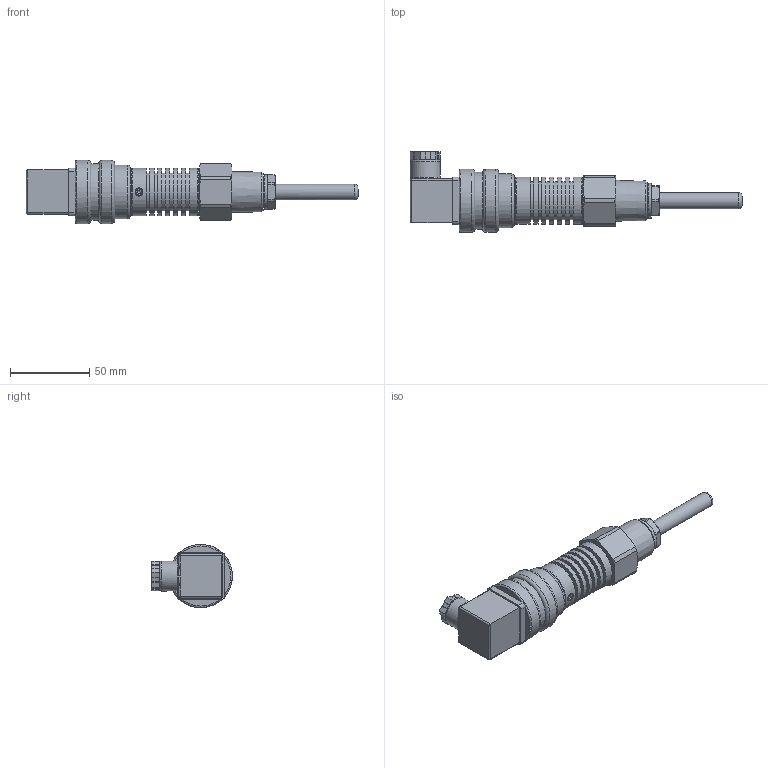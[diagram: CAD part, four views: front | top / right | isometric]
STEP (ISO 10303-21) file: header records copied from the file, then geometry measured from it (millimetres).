
FILE_DESCRIPTION((''),'2;1');
FILE_NAME('R:\Mekanisk design\HBSR\5. STEP files\HBSR-SAM-KOM.stp','2013-03-06T13:18:40',('svj'),(''),'Autodesk Inventor 2013','Autodesk Inventor 2013','');
FILE_SCHEMA(('AUTOMOTIVE_DESIGN { 1 0 10303 214 1 1 1 1 }'));
Length unit declared in the file: millimetre
Products named in the file (1): HBSR-SAM-KOM
Bounding box: 210.03 x 51.1 x 40 mm (x, y, z)
Volume: 95512.9 mm3; surface area: 48109 mm2
Topology: 1 solids, 7 shells, 761 faces, 2057 edges, 1323 vertices
Faces by surface type: plane 443, cylinder 192, cone 42, torus 40, bspline 37, sphere 7
Full cylindrical faces by diameter (mm): 0.7 x1, 1 x1, 1.1 x2, 2.459 x1, 2.7 x1, 3 x1, 3.5 x1, 4 x1, 4.5 x1, 5.7 x1, 5.8 x1, 6 x1, 6.2 x1, 8 x1, 8.4 x1, 8.5 x1, 8.6 x1, 9 x1, 10 x4, 10.1 x1, 10.5 x3, 12 x1, 12.5 x1, 13.5 x1, 16 x1, 16.8 x2, 17.9 x1, 19 x3, 19.9 x1, 20 x1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
Entity records: 31289 total; most frequent: CARTESIAN_POINT 12705, ORIENTED_EDGE 3734, DIRECTION 3479, EDGE_CURVE 1867, VERTEX_POINT 1265, AXIS2_PLACEMENT_3D 1240, VECTOR 999, LINE 999
